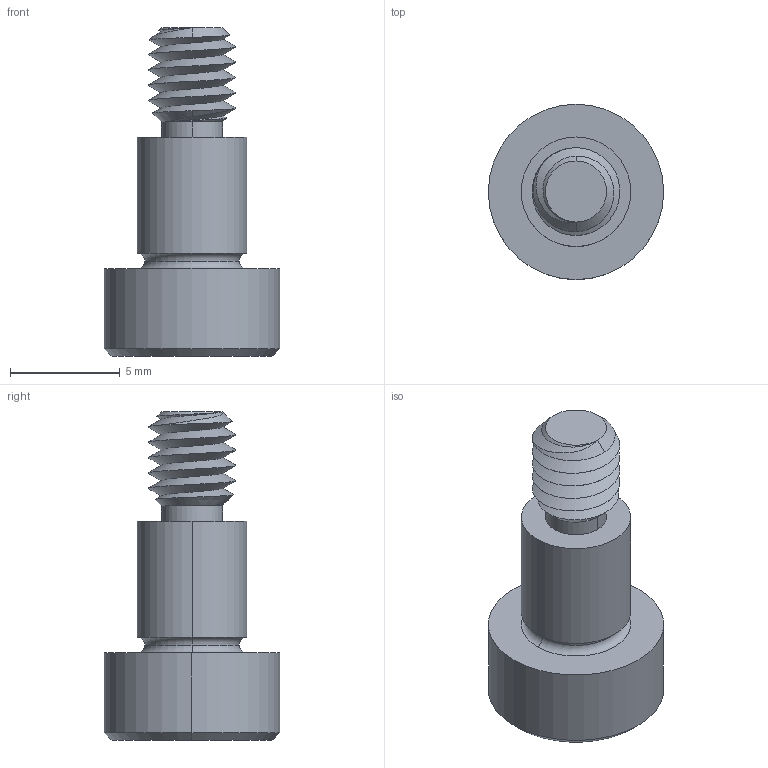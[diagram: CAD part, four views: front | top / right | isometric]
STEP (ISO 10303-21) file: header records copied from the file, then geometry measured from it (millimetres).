
FILE_DESCRIPTION (( 'STEP AP203' ), '1' );
FILE_NAME ('P0130.050-006-B2.step', '2021-11-09T21:11:44', ( '' ), ( '' ), 'SwSTEP 2.0', 'SolidWorks 2019', '' );
FILE_SCHEMA (( 'CONFIG_CONTROL_DESIGN' ));
Length unit declared in the file: millimetre
Products named in the file (1): P0130.050-006-B2
Bounding box: 8 x 8 x 15 mm (x, y, z)
Volume: 342.1 mm3; surface area: 409.7 mm2
Topology: 1 solids, 1 shells, 53 faces, 121 edges, 71 vertices
Faces by surface type: cylinder 16, plane 16, cone 15, torus 4, bspline 2
Entity records: 2151 total; most frequent: CARTESIAN_POINT 968, ORIENTED_EDGE 238, DIRECTION 226, EDGE_CURVE 119, AXIS2_PLACEMENT_3D 92, VERTEX_POINT 71, EDGE_LOOP 56, FACE_OUTER_BOUND 53
